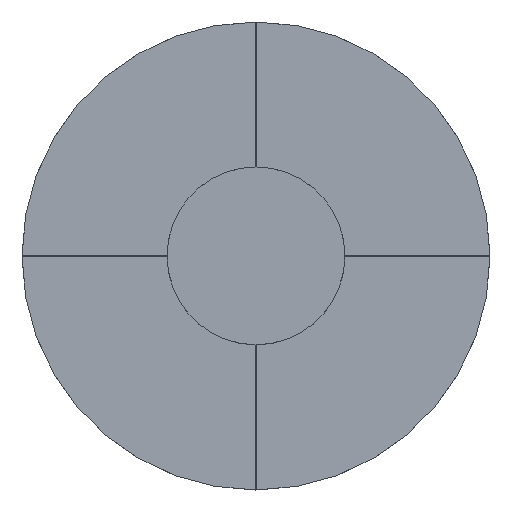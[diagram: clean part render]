
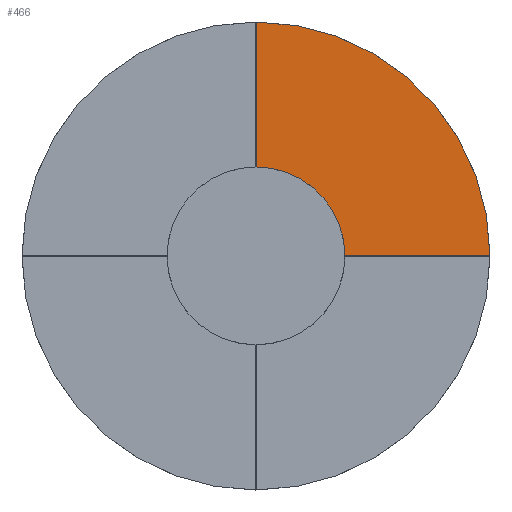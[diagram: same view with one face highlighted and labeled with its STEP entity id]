
A CAD part, top view. The second image highlights one B-rep face of the part: STEP entity #466.
In plain terms, the highlighted planar face has unit normal (0, 0, 1).
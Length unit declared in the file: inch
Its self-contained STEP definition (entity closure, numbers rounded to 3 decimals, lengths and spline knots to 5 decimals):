
#23=CARTESIAN_POINT('',(0.1645,0.0005,0.01));
#25=CARTESIAN_POINT('',(0.0005,0.1645,0.01));
#44=CARTESIAN_POINT('',(0.,0.,0.01));
#45=DIRECTION('',(0.,0.,1.));
#46=DIRECTION('',(1.,0.008,0.));
#47=AXIS2_PLACEMENT_3D('',#44,#45,#46);
#49=DIRECTION('',(0.,1.,0.));
#50=VECTOR('',#49,0.102);
#51=CARTESIAN_POINT('',(0.0005,0.0625,0.01));
#52=LINE('',#51,#50);
#53=CARTESIAN_POINT('',(0.,0.,0.01));
#54=DIRECTION('',(0.,0.,1.));
#55=DIRECTION('',(1.,0.003,0.));
#56=AXIS2_PLACEMENT_3D('',#53,#54,#55);
#58=DIRECTION('',(-1.,0.,0.));
#59=VECTOR('',#58,0.102);
#60=CARTESIAN_POINT('',(0.1645,0.0005,0.01));
#61=LINE('',#60,#59);
#312=VERTEX_POINT('',#23);
#313=VERTEX_POINT('',#25);
#319=CARTESIAN_POINT('',(0.0625,0.0005,0.01));
#320=CARTESIAN_POINT('',(0.0005,0.0625,0.01));
#321=VERTEX_POINT('',#319);
#322=VERTEX_POINT('',#320);
#453=CARTESIAN_POINT('',(0.,0.,0.01));
#454=DIRECTION('',(0.,0.,1.));
#455=DIRECTION('',(1.,0.,0.));
#456=AXIS2_PLACEMENT_3D('',#453,#454,#455);
#457=PLANE('',#456);
#458=ORIENTED_EDGE('',*,*,#427,.T.);
#460=ORIENTED_EDGE('',*,*,#459,.T.);
#461=ORIENTED_EDGE('',*,*,#381,.F.);
#463=ORIENTED_EDGE('',*,*,#462,.T.);
#464=EDGE_LOOP('',(#458,#460,#461,#463));
#465=FACE_OUTER_BOUND('',#464,.F.);
#466=ADVANCED_FACE('',(#465),#457,.T.);
#48=CIRCLE('',#47,0.0625);
#57=CIRCLE('',#56,0.1645);
#381=EDGE_CURVE('',#312,#313,#57,.T.);
#427=EDGE_CURVE('',#321,#322,#48,.T.);
#459=EDGE_CURVE('',#322,#313,#52,.T.);
#462=EDGE_CURVE('',#312,#321,#61,.T.);
